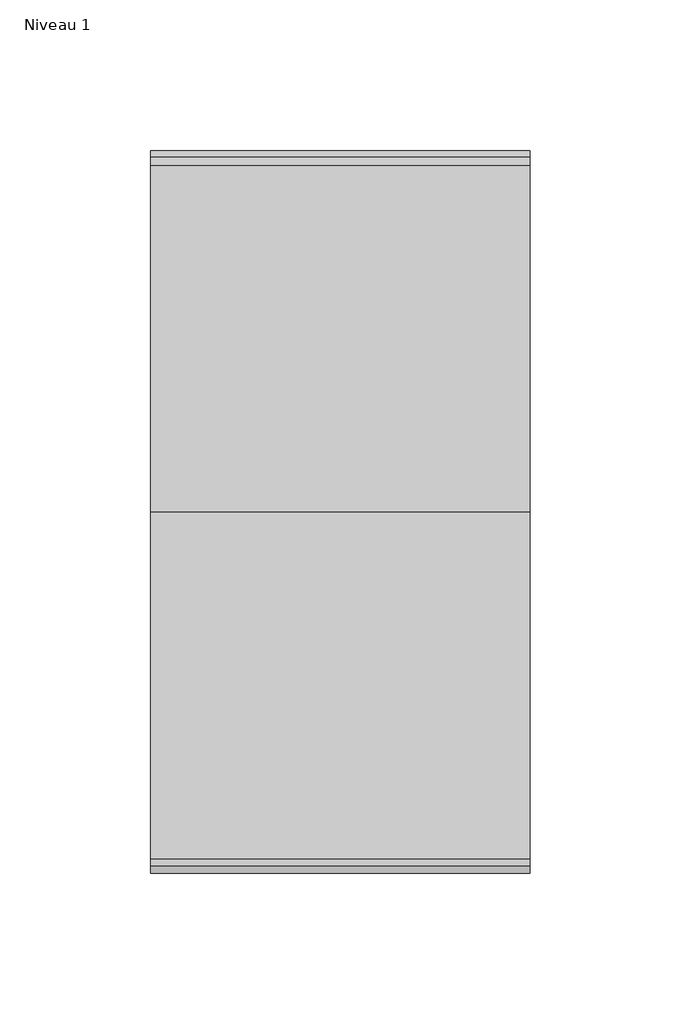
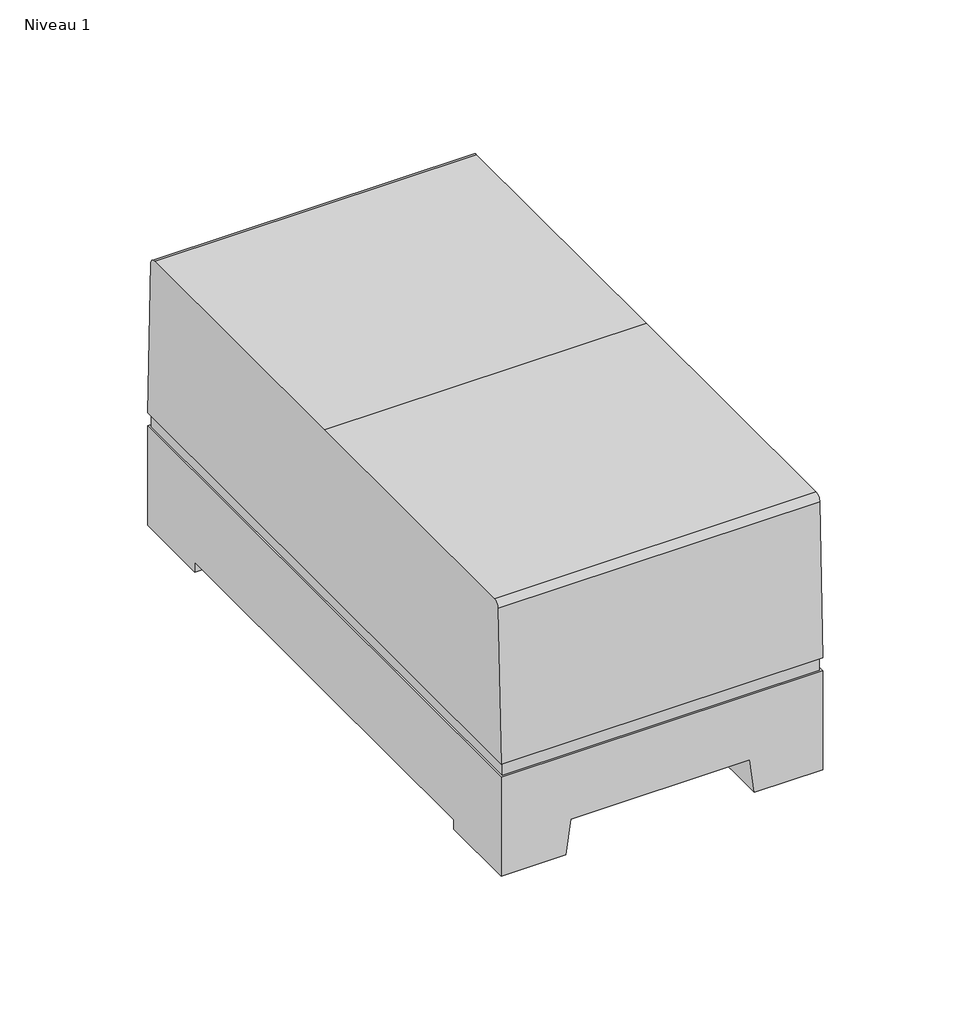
# One storey: 1 proxy.
"""IFC4 building model written with IfcOpenShell, lengths in millimetres."""

from ifc_helpers import new_model, si_unit, origin, place, context, project, spatial, transform, mapped, element, save
from components import electrical_equipment_6eb15779

model = new_model("IFC4")

# Units and contexts
model_context = context("Model", 3, world=origin())
ifc_project = project(units=[si_unit("LENGTHUNIT", "METRE", prefix="MILLI")], contexts=[model_context])

# Site, building, storey
site = spatial("IfcSite", under=ifc_project)
building = spatial("IfcBuilding", under=site)
storey = spatial("IfcBuildingStorey", under=building, Name="Niveau 1", Elevation=0.0)

# Proxy
placement = place(None, origin())
electrical_equipment_shape = electrical_equipment_6eb15779(model_context)
element("IfcBuildingElementProxy", 1, Name="CONVER CCR-IG 48V 12V 7A : CONVER CCR-IG 48V 12V 7A", ObjectType="CONVER CCR-IG 48V 12V 7A : CONVER CCR-IG 48V 12V 7A", at=placement, inside=storey, context=model_context, shape_type="MappedRepresentation", body=[
    mapped(electrical_equipment_shape, transform((-8842.5050589, 7345.5079481, 0.0), x_axis=(1.0, 0.0, 0.0), y_axis=(0.0, 1.0, 0.0), z_axis=(0.0, 0.0, 1.0))),
])

save(model, "model.ifc")
